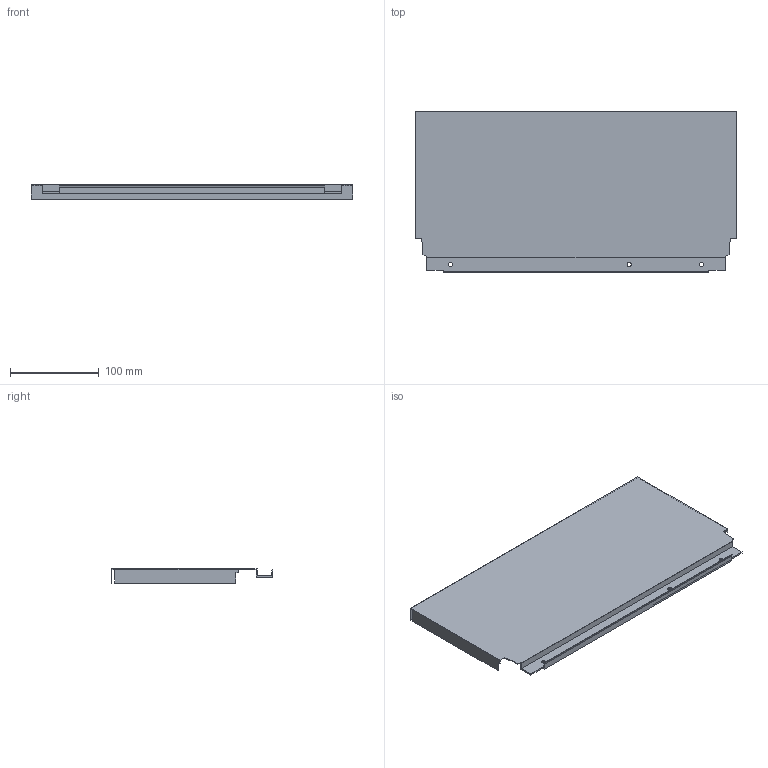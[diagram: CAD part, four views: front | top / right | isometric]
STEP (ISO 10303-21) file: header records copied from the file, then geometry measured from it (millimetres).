
FILE_DESCRIPTION (( 'STEP AP214' ), '1' );
FILE_NAME ('_DWD_XP Stahlrückwand_H182_KAB450_S18.step', '2010-07-08T12:57:53', ( 'grass' ), ( '' ), 'SwSTEP 2.0', 'SolidWorks 2010', '' );
FILE_SCHEMA (( 'AUTOMOTIVE_DESIGN' ));
Length unit declared in the file: millimetre
Products named in the file (1): _DWD_XP Stahlrückwand_H182_KAB450_S18
Bounding box: 363 x 182.49 x 16 mm (x, y, z)
Volume: 68925.1 mm3; surface area: 160562.3 mm2
Topology: 1 solids, 1 shells, 46 faces, 132 edges, 88 vertices
Faces by surface type: plane 40, cylinder 6
Entity records: 1534 total; most frequent: CARTESIAN_POINT 267, ORIENTED_EDGE 264, DIRECTION 238, EDGE_CURVE 132, VECTOR 120, LINE 120, VERTEX_POINT 88, AXIS2_PLACEMENT_3D 59
